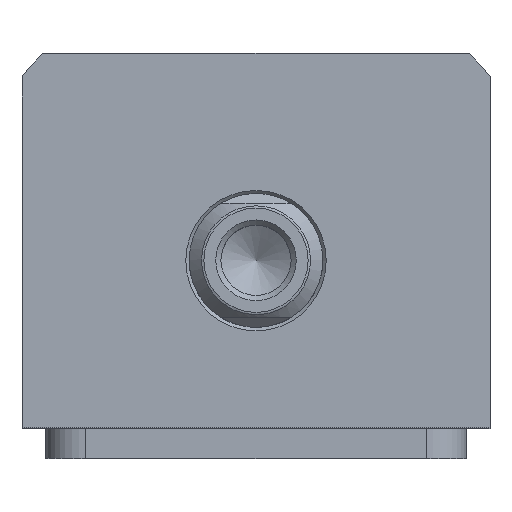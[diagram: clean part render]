
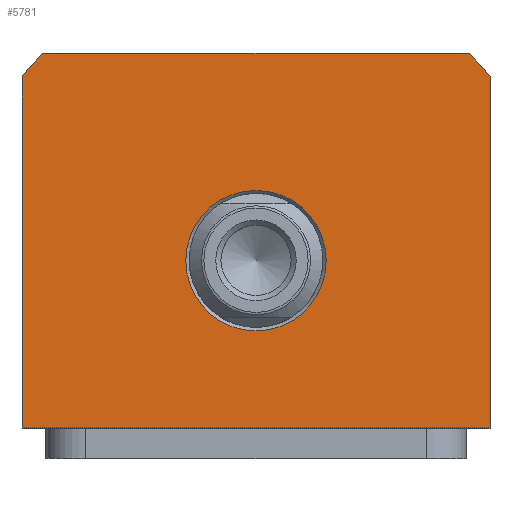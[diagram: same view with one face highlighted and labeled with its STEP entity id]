
A CAD part, top view. The second image highlights one B-rep face of the part: STEP entity #5781.
In plain terms, the highlighted planar face has unit normal (0, 0, 1).
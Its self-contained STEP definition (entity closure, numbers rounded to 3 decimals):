
#2663=LINE('',#17274,#3589);
#2700=LINE('',#17962,#3626);
#2718=LINE('',#18009,#3644);
#2726=LINE('',#18034,#3652);
#3589=VECTOR('',#12661,1.);
#3626=VECTOR('',#12798,1.);
#3644=VECTOR('',#12840,1.);
#3652=VECTOR('',#12862,1.);
#4621=PLANE('',#12108);
#5781=ADVANCED_FACE('',(#6424,#6425),#4621,.T.);
#6236=CIRCLE('',#12035,10.5);
#6270=CIRCLE('',#12093,44.5);
#6278=CIRCLE('',#12106,44.5);
#6424=FACE_BOUND('',#6636,.T.);
#6425=FACE_BOUND('',#6637,.T.);
#6636=EDGE_LOOP('',(#7486));
#6637=EDGE_LOOP('',(#7487,#7488,#7489,#7490,#7491,#7492));
#7486=ORIENTED_EDGE('',*,*,#10703,.T.);
#7487=ORIENTED_EDGE('',*,*,#10797,.T.);
#7488=ORIENTED_EDGE('',*,*,#10821,.T.);
#7489=ORIENTED_EDGE('',*,*,#10809,.T.);
#7490=ORIENTED_EDGE('',*,*,#10834,.T.);
#7491=ORIENTED_EDGE('',*,*,#10840,.T.);
#7492=ORIENTED_EDGE('',*,*,#10690,.T.);
#9767=VERTEX_POINT('',#17273);
#9768=VERTEX_POINT('',#17275);
#9780=VERTEX_POINT('',#17301);
#9864=VERTEX_POINT('',#17961);
#9870=VERTEX_POINT('',#17981);
#9873=VERTEX_POINT('',#17986);
#9891=VERTEX_POINT('',#18033);
#10690=EDGE_CURVE('',#9768,#9767,#2663,.T.);
#10703=EDGE_CURVE('',#9780,#9780,#6236,.T.);
#10797=EDGE_CURVE('',#9767,#9864,#2700,.T.);
#10809=EDGE_CURVE('',#9870,#9873,#6270,.T.);
#10821=EDGE_CURVE('',#9864,#9870,#2718,.T.);
#10834=EDGE_CURVE('',#9873,#9891,#2726,.T.);
#10840=EDGE_CURVE('',#9891,#9768,#6278,.T.);
#12035=AXIS2_PLACEMENT_3D('',#17300,#12676,#12677);
#12093=AXIS2_PLACEMENT_3D('',#17987,#12823,#12824);
#12106=AXIS2_PLACEMENT_3D('',#18043,#12872,#12873);
#12108=AXIS2_PLACEMENT_3D('',#18045,#12876,#12877);
#12661=DIRECTION('',(0.,-1.,0.));
#12676=DIRECTION('',(0.,0.,-1.));
#12677=DIRECTION('',(1.,0.,0.));
#12798=DIRECTION('',(1.,0.,0.));
#12823=DIRECTION('',(0.,0.,1.));
#12824=DIRECTION('',(1.,0.,0.));
#12840=DIRECTION('',(0.,1.,0.));
#12862=DIRECTION('',(-1.,0.,0.));
#12872=DIRECTION('',(0.,0.,1.));
#12873=DIRECTION('',(1.,0.,0.));
#12876=DIRECTION('',(0.,0.,1.));
#12877=DIRECTION('',(-1.,0.,0.));
#17273=CARTESIAN_POINT('',(-35.,-25.,47.));
#17274=CARTESIAN_POINT('',(-35.,-25.,47.));
#17275=CARTESIAN_POINT('',(-35.,27.482,47.));
#17300=CARTESIAN_POINT('',(0.,0.,47.));
#17301=CARTESIAN_POINT('',(10.5,0.,47.));
#17961=CARTESIAN_POINT('',(35.,-25.,47.));
#17962=CARTESIAN_POINT('',(35.,-25.,47.));
#17981=CARTESIAN_POINT('',(35.,27.482,47.));
#17986=CARTESIAN_POINT('',(31.926,31.,47.));
#17987=CARTESIAN_POINT('',(0.,0.,47.));
#18009=CARTESIAN_POINT('',(35.,27.482,47.));
#18033=CARTESIAN_POINT('',(-31.926,31.,47.));
#18034=CARTESIAN_POINT('',(-31.926,31.,47.));
#18043=CARTESIAN_POINT('',(0.,0.,47.));
#18045=CARTESIAN_POINT('',(0.,0.,47.));
